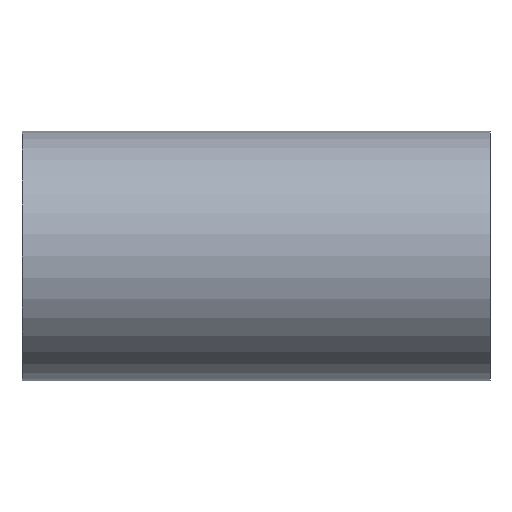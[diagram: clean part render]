
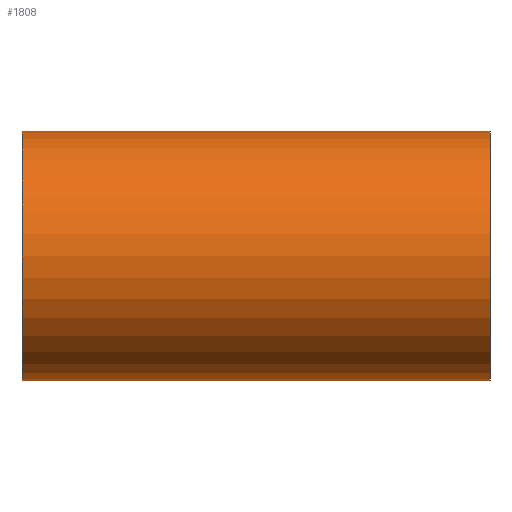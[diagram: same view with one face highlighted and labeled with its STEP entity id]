
A CAD part, front view. The second image highlights one B-rep face of the part: STEP entity #1808.
In plain terms, the highlighted cylindrical face has radius 76.2 mm (diameter 152.4 mm), a partial arc.
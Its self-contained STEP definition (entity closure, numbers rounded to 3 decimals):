
#37 = CARTESIAN_POINT ( 'NONE',  ( -142.9, 0., 0. ) ) ;
#110 = VERTEX_POINT ( 'NONE', #415 ) ;
#138 = DIRECTION ( 'NONE',  ( 1., 0., 0. ) ) ;
#334 = CARTESIAN_POINT ( 'NONE',  ( -142.9, 0., 76.2 ) ) ;
#394 = VECTOR ( 'NONE', #1612, 1000. ) ;
#395 = ORIENTED_EDGE ( 'NONE', *, *, #993, .T. ) ;
#398 = LINE ( 'NONE', #334, #394 ) ;
#407 = AXIS2_PLACEMENT_3D ( 'NONE', #37, #1712, #708 ) ;
#415 = CARTESIAN_POINT ( 'NONE',  ( 142.9, 0., -76.2 ) ) ;
#553 = CIRCLE ( 'NONE', #2085, 76.2 ) ;
#622 = CARTESIAN_POINT ( 'NONE',  ( -142.9, 0., 0. ) ) ;
#688 = CARTESIAN_POINT ( 'NONE',  ( -142.9, 0., -76.2 ) ) ;
#689 = ORIENTED_EDGE ( 'NONE', *, *, #915, .F. ) ;
#698 = VECTOR ( 'NONE', #138, 1000. ) ;
#708 = DIRECTION ( 'NONE',  ( 0., 0., -1. ) ) ;
#749 = VERTEX_POINT ( 'NONE', #980 ) ;
#772 = DIRECTION ( 'NONE',  ( 0., 0., -1. ) ) ;
#791 = VERTEX_POINT ( 'NONE', #1091 ) ;
#915 = EDGE_CURVE ( 'NONE', #749, #1629, #398, .T. ) ;
#980 = CARTESIAN_POINT ( 'NONE',  ( -142.9, 0., 76.2 ) ) ;
#992 = ORIENTED_EDGE ( 'NONE', *, *, #1489, .T. ) ;
#993 = EDGE_CURVE ( 'NONE', #110, #1629, #553, .T. ) ;
#1002 = CYLINDRICAL_SURFACE ( 'NONE', #407, 76.2 ) ;
#1091 = CARTESIAN_POINT ( 'NONE',  ( -142.9, 0., -76.2 ) ) ;
#1352 = FACE_OUTER_BOUND ( 'NONE', #1723, .T. ) ;
#1370 = ORIENTED_EDGE ( 'NONE', *, *, #2046, .T. ) ;
#1489 = EDGE_CURVE ( 'NONE', #791, #110, #1940, .T. ) ;
#1612 = DIRECTION ( 'NONE',  ( 1., 0., 0. ) ) ;
#1629 = VERTEX_POINT ( 'NONE', #1910 ) ;
#1712 = DIRECTION ( 'NONE',  ( 1., 0., 0. ) ) ;
#1723 = EDGE_LOOP ( 'NONE', ( #689, #1370, #992, #395 ) ) ;
#1751 = AXIS2_PLACEMENT_3D ( 'NONE', #622, #1783, #772 ) ;
#1783 = DIRECTION ( 'NONE',  ( 1., 0., 0. ) ) ;
#1808 = ADVANCED_FACE ( 'NONE', ( #1352 ), #1002, .T. ) ;
#1837 = CARTESIAN_POINT ( 'NONE',  ( 142.9, 0., 0. ) ) ;
#1846 = DIRECTION ( 'NONE',  ( -1., 0., 0. ) ) ;
#1855 = DIRECTION ( 'NONE',  ( 0., 0., -1. ) ) ;
#1910 = CARTESIAN_POINT ( 'NONE',  ( 142.9, 0., 76.2 ) ) ;
#1932 = CIRCLE ( 'NONE', #1751, 76.2 ) ;
#1940 = LINE ( 'NONE', #688, #698 ) ;
#2046 = EDGE_CURVE ( 'NONE', #749, #791, #1932, .T. ) ;
#2085 = AXIS2_PLACEMENT_3D ( 'NONE', #1837, #1846, #1855 ) ;
